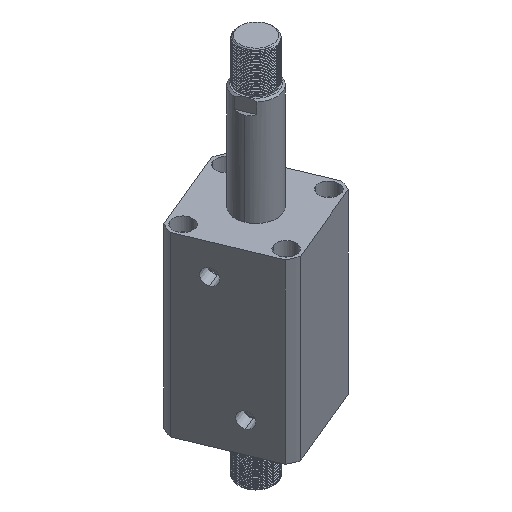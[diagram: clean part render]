
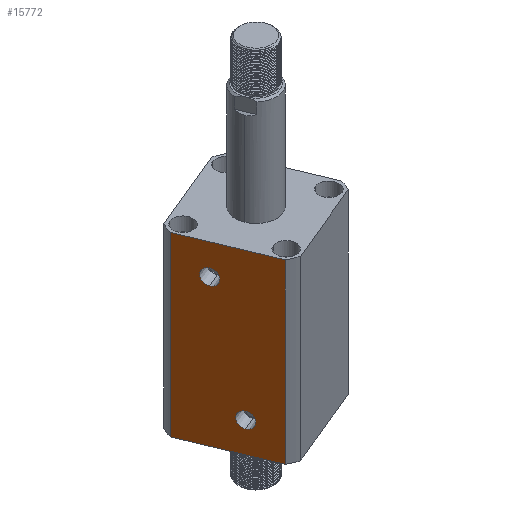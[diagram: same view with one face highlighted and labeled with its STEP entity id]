
A CAD part, isometric view. The second image highlights one B-rep face of the part: STEP entity #15772.
In plain terms, the highlighted planar face has unit normal (-0.924, -0.383, 0) as drawn and (0, -1, 0) by its records, which use the part's own axes.
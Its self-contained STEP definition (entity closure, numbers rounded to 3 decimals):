
#603 = DIRECTION ( 'NONE',  ( 0., -1., 0. ) ) ;
#904 = ORIENTED_EDGE ( 'NONE', *, *, #16807, .F. ) ;
#996 = VECTOR ( 'NONE', #18590, 1000. ) ;
#1966 = EDGE_CURVE ( 'NONE', #23741, #6089, #9201, .T. ) ;
#2005 = LINE ( 'NONE', #19235, #8650 ) ;
#2280 = LINE ( 'NONE', #6529, #996 ) ;
#2453 = CARTESIAN_POINT ( 'NONE',  ( -15., -57., 160. ) ) ;
#3110 = DIRECTION ( 'NONE',  ( 1., 0., 0. ) ) ;
#3661 = DIRECTION ( 'NONE',  ( 1., 0., 0. ) ) ;
#3873 = AXIS2_PLACEMENT_3D ( 'NONE', #6765, #22920, #10844 ) ;
#3948 = VERTEX_POINT ( 'NONE', #5579 ) ;
#3960 = LINE ( 'NONE', #15321, #14074 ) ;
#4439 = DIRECTION ( 'NONE',  ( 0., -1., 0. ) ) ;
#4508 = DIRECTION ( 'NONE',  ( 0., 0., -1. ) ) ;
#5579 = CARTESIAN_POINT ( 'NONE',  ( -47.971, -57., 0. ) ) ;
#5601 = CARTESIAN_POINT ( 'NONE',  ( 47.971, -57., 193. ) ) ;
#6089 = VERTEX_POINT ( 'NONE', #18970 ) ;
#6305 = EDGE_CURVE ( 'NONE', #7057, #15082, #12773, .T. ) ;
#6377 = EDGE_LOOP ( 'NONE', ( #11064, #14672, #14238, #10818 ) ) ;
#6529 = CARTESIAN_POINT ( 'NONE',  ( 47.971, -57., -107. ) ) ;
#6765 = CARTESIAN_POINT ( 'NONE',  ( -57., -57., 193. ) ) ;
#7057 = VERTEX_POINT ( 'NONE', #23702 ) ;
#7354 = DIRECTION ( 'NONE',  ( 0., 0., 1. ) ) ;
#7392 = VECTOR ( 'NONE', #3661, 1000. ) ;
#7729 = CARTESIAN_POINT ( 'NONE',  ( 15., -57., 33. ) ) ;
#8269 = EDGE_CURVE ( 'NONE', #15082, #24145, #2280, .T. ) ;
#8650 = VECTOR ( 'NONE', #3110, 1000. ) ;
#8680 = CIRCLE ( 'NONE', #18664, 8.428 ) ;
#9016 = EDGE_LOOP ( 'NONE', ( #22488, #13472 ) ) ;
#9201 = CIRCLE ( 'NONE', #19695, 8.428 ) ;
#9376 = AXIS2_PLACEMENT_3D ( 'NONE', #12736, #603, #14778 ) ;
#9426 = VERTEX_POINT ( 'NONE', #20255 ) ;
#9749 = DIRECTION ( 'NONE',  ( 0., 0., -1. ) ) ;
#9899 = VERTEX_POINT ( 'NONE', #9924 ) ;
#9924 = CARTESIAN_POINT ( 'NONE',  ( 15., -57., 41.428 ) ) ;
#10818 = ORIENTED_EDGE ( 'NONE', *, *, #6305, .F. ) ;
#10835 = FACE_BOUND ( 'NONE', #11376, .T. ) ;
#10844 = DIRECTION ( 'NONE',  ( 0., 0., 1. ) ) ;
#11064 = ORIENTED_EDGE ( 'NONE', *, *, #21606, .F. ) ;
#11376 = EDGE_LOOP ( 'NONE', ( #19571, #904 ) ) ;
#11794 = EDGE_CURVE ( 'NONE', #9426, #9899, #18158, .T. ) ;
#12736 = CARTESIAN_POINT ( 'NONE',  ( 15., -57., 33. ) ) ;
#12773 = LINE ( 'NONE', #23911, #7392 ) ;
#12995 = EDGE_CURVE ( 'NONE', #6089, #23741, #8680, .T. ) ;
#13472 = ORIENTED_EDGE ( 'NONE', *, *, #12995, .F. ) ;
#14074 = VECTOR ( 'NONE', #7354, 1000. ) ;
#14238 = ORIENTED_EDGE ( 'NONE', *, *, #8269, .F. ) ;
#14672 = ORIENTED_EDGE ( 'NONE', *, *, #22941, .T. ) ;
#14778 = DIRECTION ( 'NONE',  ( 0., 0., -1. ) ) ;
#15082 = VERTEX_POINT ( 'NONE', #5601 ) ;
#15321 = CARTESIAN_POINT ( 'NONE',  ( -47.971, -57., -107. ) ) ;
#15772 = ADVANCED_FACE ( 'NONE', ( #16191, #10835, #21550 ), #18838, .F. ) ;
#16191 = FACE_BOUND ( 'NONE', #9016, .T. ) ;
#16512 = CARTESIAN_POINT ( 'NONE',  ( -15., -57., 160. ) ) ;
#16579 = DIRECTION ( 'NONE',  ( 0., -1., 0. ) ) ;
#16807 = EDGE_CURVE ( 'NONE', #9899, #9426, #18051, .T. ) ;
#17419 = CARTESIAN_POINT ( 'NONE',  ( 47.971, -57., 0. ) ) ;
#18051 = CIRCLE ( 'NONE', #20432, 8.428 ) ;
#18158 = CIRCLE ( 'NONE', #9376, 8.428 ) ;
#18534 = DIRECTION ( 'NONE',  ( 0., 0., -1. ) ) ;
#18590 = DIRECTION ( 'NONE',  ( 0., 0., -1. ) ) ;
#18664 = AXIS2_PLACEMENT_3D ( 'NONE', #2453, #16579, #4508 ) ;
#18838 = PLANE ( 'NONE',  #3873 ) ;
#18970 = CARTESIAN_POINT ( 'NONE',  ( -15., -57., 168.428 ) ) ;
#19235 = CARTESIAN_POINT ( 'NONE',  ( -57., -57., 0. ) ) ;
#19571 = ORIENTED_EDGE ( 'NONE', *, *, #11794, .F. ) ;
#19695 = AXIS2_PLACEMENT_3D ( 'NONE', #16512, #4439, #18534 ) ;
#20255 = CARTESIAN_POINT ( 'NONE',  ( 15., -57., 24.572 ) ) ;
#20432 = AXIS2_PLACEMENT_3D ( 'NONE', #7729, #21814, #9749 ) ;
#20454 = CARTESIAN_POINT ( 'NONE',  ( -15., -57., 151.572 ) ) ;
#21550 = FACE_OUTER_BOUND ( 'NONE', #6377, .T. ) ;
#21606 = EDGE_CURVE ( 'NONE', #3948, #7057, #3960, .T. ) ;
#21814 = DIRECTION ( 'NONE',  ( 0., -1., 0. ) ) ;
#22488 = ORIENTED_EDGE ( 'NONE', *, *, #1966, .F. ) ;
#22920 = DIRECTION ( 'NONE',  ( 0., 1., 0. ) ) ;
#22941 = EDGE_CURVE ( 'NONE', #3948, #24145, #2005, .T. ) ;
#23702 = CARTESIAN_POINT ( 'NONE',  ( -47.971, -57., 193. ) ) ;
#23741 = VERTEX_POINT ( 'NONE', #20454 ) ;
#23911 = CARTESIAN_POINT ( 'NONE',  ( -57., -57., 193. ) ) ;
#24145 = VERTEX_POINT ( 'NONE', #17419 ) ;
